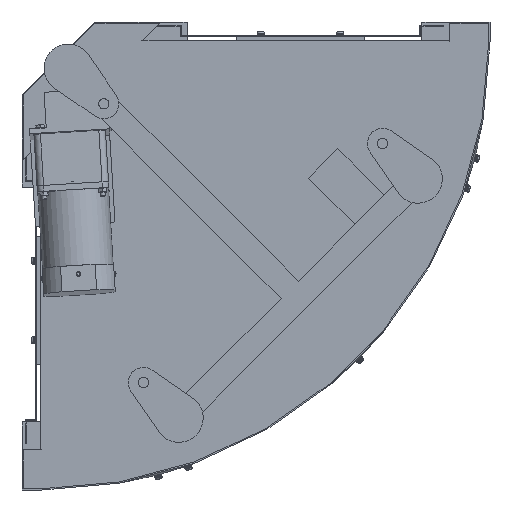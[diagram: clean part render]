
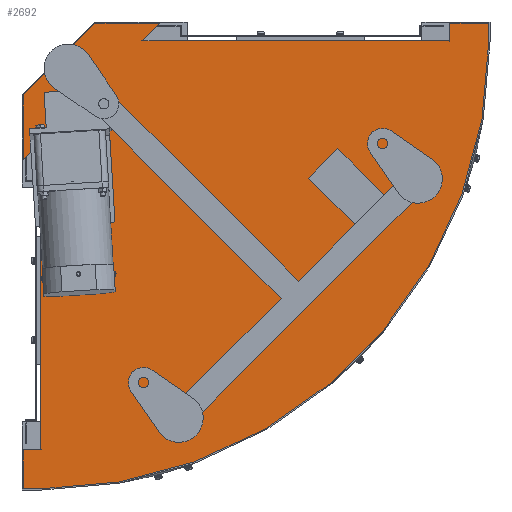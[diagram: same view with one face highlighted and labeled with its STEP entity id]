
A CAD part, front view. The second image highlights one B-rep face of the part: STEP entity #2692.
In plain terms, the highlighted planar face has unit normal (0, -1, 0).
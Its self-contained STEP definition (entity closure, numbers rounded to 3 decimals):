
#2692=ADVANCED_FACE('',(#13028),#13027,.F.);
#13027=PLANE('',#21303);
#13028=FACE_OUTER_BOUND('',#21304,.T.);
#21300=CARTESIAN_POINT('',(-33.4,-145.7,-571.5));
#21301=DIRECTION('',(0.,1.,0.));
#21302=DIRECTION('',(0.,0.,1.));
#21303=AXIS2_PLACEMENT_3D('',#21300,#21301,#21302);
#21304=EDGE_LOOP('',(#28107,#28108,#28109,#28110,#28111,#28112,#28113,#28114,#28115,#28116,#28117,#28118,#28119,#28120));
#28107=ORIENTED_EDGE('',*,*,#31193,.F.);
#28108=ORIENTED_EDGE('',*,*,#31177,.T.);
#28109=ORIENTED_EDGE('',*,*,#31195,.T.);
#28110=ORIENTED_EDGE('',*,*,#31196,.T.);
#28111=ORIENTED_EDGE('',*,*,#31197,.T.);
#28112=ORIENTED_EDGE('',*,*,#31181,.T.);
#28113=ORIENTED_EDGE('',*,*,#31191,.F.);
#28114=ORIENTED_EDGE('',*,*,#31198,.T.);
#28115=ORIENTED_EDGE('',*,*,#31199,.T.);
#28116=ORIENTED_EDGE('',*,*,#31200,.T.);
#28117=ORIENTED_EDGE('',*,*,#31201,.T.);
#28118=ORIENTED_EDGE('',*,*,#31202,.T.);
#28119=ORIENTED_EDGE('',*,*,#31203,.T.);
#28120=ORIENTED_EDGE('',*,*,#31204,.T.);
#31177=EDGE_CURVE('',#46800,#46793,#46801,.T.);
#31181=EDGE_CURVE('',#46773,#46821,#46828,.T.);
#31191=EDGE_CURVE('',#46882,#46821,#46895,.T.);
#31193=EDGE_CURVE('',#46800,#46445,#46907,.T.);
#31195=EDGE_CURVE('',#46793,#46919,#46920,.T.);
#31196=EDGE_CURVE('',#46919,#46926,#46927,.T.);
#31197=EDGE_CURVE('',#46926,#46773,#46933,.T.);
#31198=EDGE_CURVE('',#46882,#46939,#46940,.T.);
#31199=EDGE_CURVE('',#46939,#46946,#46947,.T.);
#31200=EDGE_CURVE('',#46946,#46953,#46954,.T.);
#31201=EDGE_CURVE('',#46953,#46960,#46961,.T.);
#31202=EDGE_CURVE('',#46960,#46967,#46968,.T.);
#31203=EDGE_CURVE('',#46967,#46974,#46975,.T.);
#31204=EDGE_CURVE('',#46974,#46445,#46981,.T.);
#46445=VERTEX_POINT('',#59057);
#46773=VERTEX_POINT('',#59264);
#46793=VERTEX_POINT('',#59275);
#46800=VERTEX_POINT('',#59279);
#46801=LINE('',#59280,#59281);
#46821=VERTEX_POINT('',#59291);
#46828=LINE('',#59295,#59296);
#46882=VERTEX_POINT('',#59326);
#46895=LINE('',#59334,#59335);
#46907=LINE('',#59340,#59341);
#46919=VERTEX_POINT('',#59346);
#46920=LINE('',#59347,#59348);
#46926=VERTEX_POINT('',#59350);
#46927=LINE('',#59351,#59352);
#46933=LINE('',#59354,#59355);
#46939=VERTEX_POINT('',#59357);
#46940=LINE('',#59358,#59359);
#46946=VERTEX_POINT('',#59361);
#46947=LINE('',#59362,#59363);
#46953=VERTEX_POINT('',#59365);
#46954=LINE('',#59366,#59367);
#46960=VERTEX_POINT('',#59369);
#46961=CIRCLE('',#59373,561.5);
#46967=VERTEX_POINT('',#59374);
#46968=LINE('',#59375,#59376);
#46974=VERTEX_POINT('',#59378);
#46975=LINE('',#59379,#59380);
#46981=LINE('',#59382,#59383);
#59057=CARTESIAN_POINT('',(512.5,-145.7,1.621));
#59264=CARTESIAN_POINT('',(-23.4,-145.7,-147.5));
#59275=CARTESIAN_POINT('',(147.5,-145.7,23.4));
#59279=CARTESIAN_POINT('',(125.775,-145.7,1.675));
#59280=CARTESIAN_POINT('',(125.775,-145.7,1.675));
#59281=VECTOR('',#59282,30.724);
#59282=DIRECTION('',(0.707,0.,0.707));
#59291=CARTESIAN_POINT('',(-1.675,-145.7,-125.775));
#59295=CARTESIAN_POINT('',(-23.4,-145.7,-147.5));
#59296=VECTOR('',#59297,30.724);
#59297=DIRECTION('',(0.707,0.,0.707));
#59326=CARTESIAN_POINT('',(-1.621,-145.7,-512.5));
#59334=CARTESIAN_POINT('',(-1.621,-145.7,-512.497));
#59335=VECTOR('',#59336,386.723);
#59336=DIRECTION('',(0.,0.,1.));
#59340=CARTESIAN_POINT('',(125.775,-145.7,1.675));
#59341=VECTOR('',#59342,386.723);
#59342=DIRECTION('',(1.,0.,0.));
#59346=CARTESIAN_POINT('',(66.663,-145.7,23.4));
#59347=CARTESIAN_POINT('',(147.5,-145.7,23.4));
#59348=VECTOR('',#59349,80.837);
#59349=DIRECTION('',(-1.,0.,0.));
#59350=CARTESIAN_POINT('',(-23.4,-145.7,-66.663));
#59351=CARTESIAN_POINT('',(66.663,-145.7,23.4));
#59352=VECTOR('',#59353,127.368);
#59353=DIRECTION('',(-0.707,0.,-0.707));
#59354=CARTESIAN_POINT('',(-23.4,-145.7,-66.663));
#59355=VECTOR('',#59356,80.837);
#59356=DIRECTION('',(0.,0.,-1.));
#59357=CARTESIAN_POINT('',(-23.4,-145.7,-512.5));
#59358=CARTESIAN_POINT('',(-1.621,-145.7,-512.5));
#59359=VECTOR('',#59360,21.779);
#59360=DIRECTION('',(-1.,0.,0.));
#59361=CARTESIAN_POINT('',(-23.4,-145.7,-561.5));
#59362=CARTESIAN_POINT('',(-23.4,-145.7,-512.5));
#59363=VECTOR('',#59364,49.);
#59364=DIRECTION('',(0.,0.,-1.));
#59365=CARTESIAN_POINT('',(0.,-145.7,-561.5));
#59366=CARTESIAN_POINT('',(-23.4,-145.7,-561.5));
#59367=VECTOR('',#59368,23.4);
#59368=DIRECTION('',(1.,0.,0.));
#59369=CARTESIAN_POINT('',(561.5,-145.7,0.));
#59370=CARTESIAN_POINT('',(0.,-145.7,0.));
#59371=DIRECTION('',(0.,-1.,0.));
#59372=DIRECTION('',(0.,0.,-1.));
#59373=AXIS2_PLACEMENT_3D('',#59370,#59371,#59372);
#59374=CARTESIAN_POINT('',(561.5,-145.7,23.4));
#59375=CARTESIAN_POINT('',(561.5,-145.7,0.));
#59376=VECTOR('',#59377,23.4);
#59377=DIRECTION('',(0.,0.,1.));
#59378=CARTESIAN_POINT('',(512.5,-145.7,23.4));
#59379=CARTESIAN_POINT('',(561.5,-145.7,23.4));
#59380=VECTOR('',#59381,49.);
#59381=DIRECTION('',(-1.,0.,0.));
#59382=CARTESIAN_POINT('',(512.5,-145.7,23.4));
#59383=VECTOR('',#59384,21.779);
#59384=DIRECTION('',(0.,0.,-1.));
